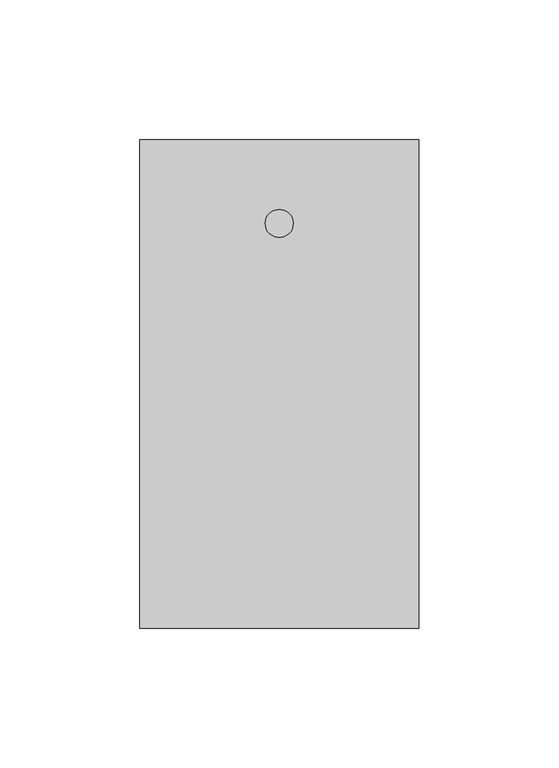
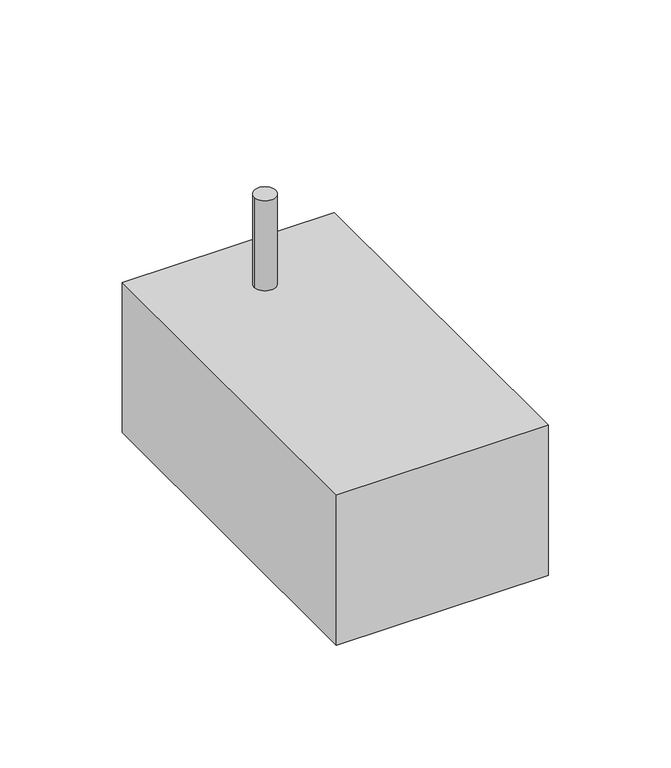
"""IFC4 building model written with IfcOpenShell, lengths in millimetres: furniture geometry, Jabonera : Generico_Pico."""

from ifc_helpers import new_model, si_unit, point, frame, frame_2d, origin, origin_with_axes, place, context, project, spatial, polyline, circle_curve, trimmed, segment, composite_curve, outline, extrude, source, transform, mapped, element, save


def furniture_6cb53b01(model_context):
    return source(origin(), model_context, "Body", "SweptSolid", [
        extrude(outline(composite_curve([segment(trimmed(circle_curve(frame_2d((0.0, 57.5)), 5.0), [point((-5.0, 57.5))], [point((5.0, 57.5))], False, "CARTESIAN"), True, "CONTINUOUS"), segment(trimmed(circle_curve(frame_2d((0.0, 57.5)), 5.0), [point((5.0, 57.5))], [point((-5.0, 57.5))], False, "CARTESIAN"), True, "CONTINUOUS")], self_intersect=False)), frame((0.0, 0.0, 75.0), z_axis=(0.0, 0.0, 1.0), x_axis=(1.0, 0.0, 0.0)), (0.0, 0.0, 1.0), 45.0),
        extrude(outline(polyline([(50.0, -87.5), (-50.0, -87.5), (-50.0, 87.5), (50.0, 87.5), (50.0, -87.5)])), origin_with_axes(), (0.0, 0.0, 1.0), 75.0),
    ])


if __name__ == "__main__":
    model = new_model("IFC4")
    model_context = context("Model", 3, world=origin())
    ifc_project = project(units=[si_unit("LENGTHUNIT", "METRE", prefix="MILLI")], contexts=[model_context])
    site = spatial("IfcSite", under=ifc_project)
    building = spatial("IfcBuilding", under=site)
    placement = place(None, origin())
    furniture_shape = furniture_6cb53b01(model_context)
    element("IfcFurniture", 1, ObjectType="Jabonera : Generico_Pico", at=placement, inside=building, context=model_context, shape_type="MappedRepresentation", body=[
        mapped(furniture_shape, transform((0.0, 0.0, 0.0), x_axis=(1.0, 0.0, 0.0), y_axis=(0.0, 1.0, 0.0), z_axis=(0.0, 0.0, 1.0))),
    ])
    save(model, "model.ifc")
